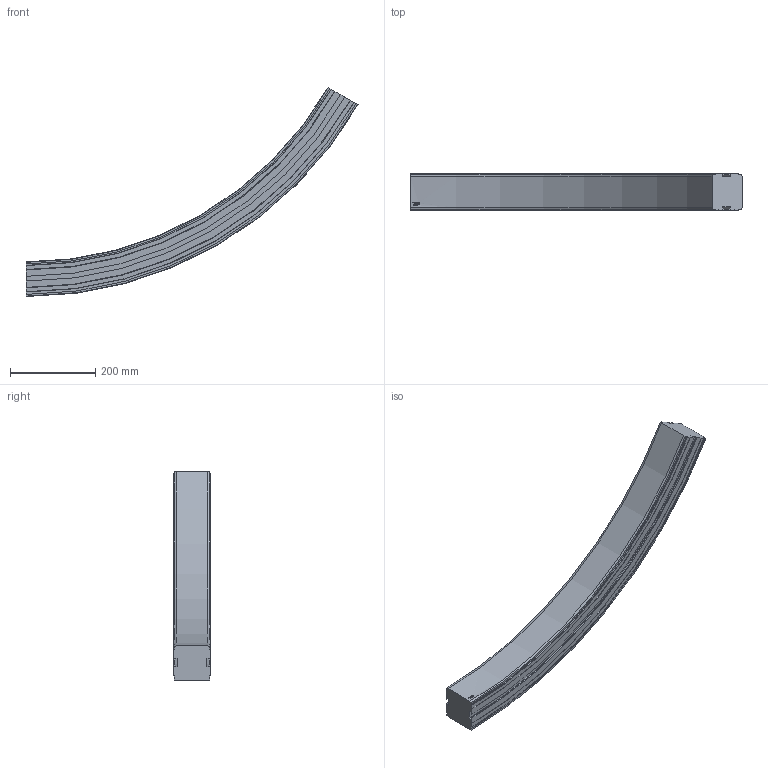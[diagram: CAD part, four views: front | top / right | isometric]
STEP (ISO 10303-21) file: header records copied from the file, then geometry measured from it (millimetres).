
FILE_DESCRIPTION((''),'2;1');
FILE_NAME('C:\Vault Klient\Projekt\Koncept konstruktion\Serie 830 Balk\830-5680_UP.stp','2009-11-27T11:19:34',('Mathias'),(''),'Autodesk Inventor 2010','Autodesk Inventor 2010','');
FILE_SCHEMA(('AUTOMOTIVE_DESIGN { 1 0 10303 214 1 1 1 1 }'));
Length unit declared in the file: millimetre
Products named in the file (1): 830-5680_UP
Bounding box: 781.15 x 86 x 491.75 mm (x, y, z)
Volume: 5994759.7 mm3; surface area: 381709.8 mm2
Topology: 1 solids, 1 shells, 93 faces, 258 edges, 172 vertices
Faces by surface type: plane 40, cylinder 23, bspline 14, cone 12, torus 4
Entity records: 3437 total; most frequent: CARTESIAN_POINT 1002, ORIENTED_EDGE 516, DIRECTION 472, EDGE_CURVE 258, VERTEX_POINT 172, AXIS2_PLACEMENT_3D 162, VECTOR 148, LINE 148
